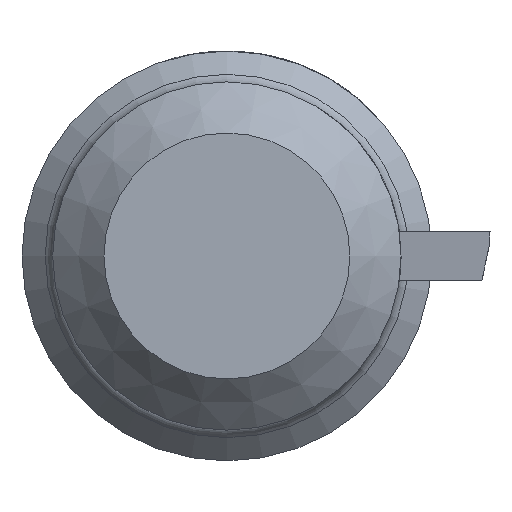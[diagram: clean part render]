
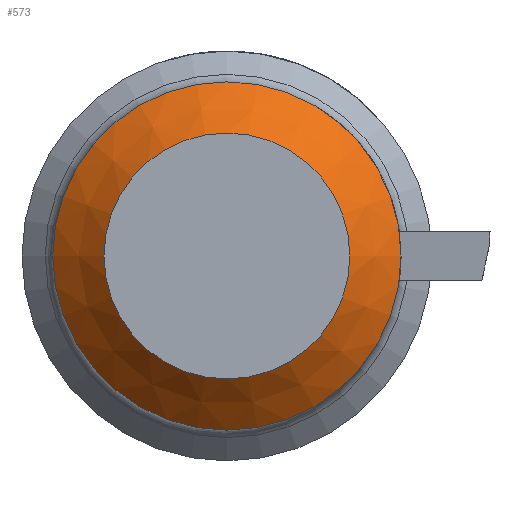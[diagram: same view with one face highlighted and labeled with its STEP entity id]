
A CAD part, left-side view. The second image highlights one B-rep face of the part: STEP entity #573.
In plain terms, the highlighted conical face has half-angle 45 degrees and reference radius 2.9 mm.
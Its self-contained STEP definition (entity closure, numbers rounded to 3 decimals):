
#15=CONICAL_SURFACE('',#653,2.9,0.785);
#49=CIRCLE('',#652,3.4);
#50=CIRCLE('',#654,2.4);
#96=FACE_OUTER_BOUND('',#130,.T.);
#130=EDGE_LOOP('',(#486,#487,#488,#489));
#173=LINE('',#1048,#214);
#214=VECTOR('',#816,2.9);
#262=VERTEX_POINT('',#1042);
#263=VERTEX_POINT('',#1046);
#336=EDGE_CURVE('',#262,#262,#49,.T.);
#338=EDGE_CURVE('',#263,#263,#50,.T.);
#339=EDGE_CURVE('',#263,#262,#173,.T.);
#486=ORIENTED_EDGE('',*,*,#338,.F.);
#487=ORIENTED_EDGE('',*,*,#339,.T.);
#488=ORIENTED_EDGE('',*,*,#336,.T.);
#489=ORIENTED_EDGE('',*,*,#339,.F.);
#573=ADVANCED_FACE('',(#96),#15,.T.);
#652=AXIS2_PLACEMENT_3D('',#1043,#809,#810);
#653=AXIS2_PLACEMENT_3D('',#1045,#812,#813);
#654=AXIS2_PLACEMENT_3D('',#1047,#814,#815);
#809=DIRECTION('center_axis',(-1.,0.,0.));
#810=DIRECTION('ref_axis',(0.,0.,1.));
#812=DIRECTION('center_axis',(1.,0.,0.));
#813=DIRECTION('ref_axis',(0.,-1.,0.));
#814=DIRECTION('center_axis',(-1.,0.,0.));
#815=DIRECTION('ref_axis',(0.,0.,1.));
#816=DIRECTION('',(0.707,0.707,0.));
#1042=CARTESIAN_POINT('',(1.,3.4,0.));
#1043=CARTESIAN_POINT('Origin',(1.,0.,0.));
#1045=CARTESIAN_POINT('Origin',(0.5,0.,0.));
#1046=CARTESIAN_POINT('',(0.,2.4,0.));
#1047=CARTESIAN_POINT('Origin',(0.,0.,0.));
#1048=CARTESIAN_POINT('',(0.5,2.9,0.));
